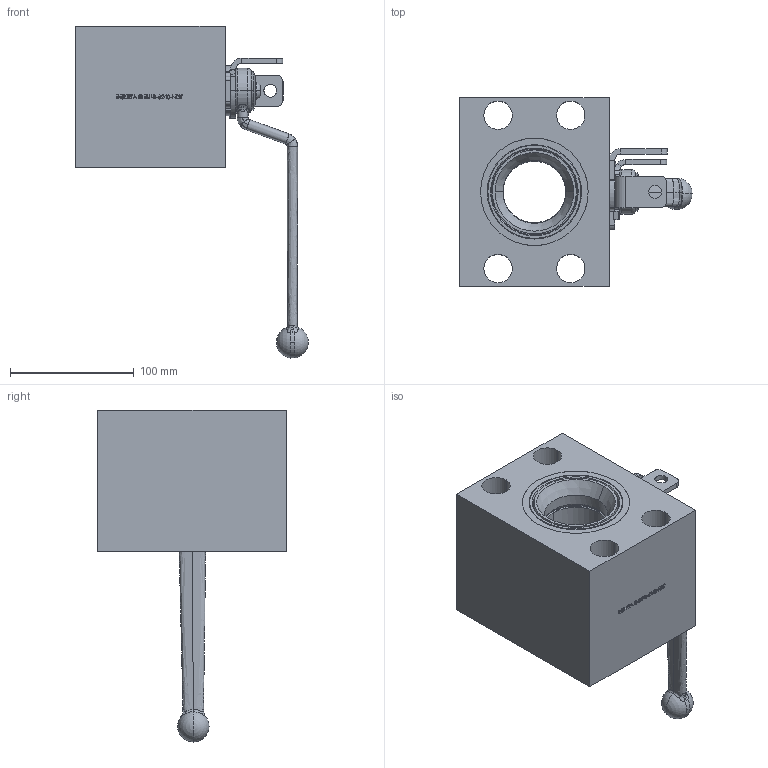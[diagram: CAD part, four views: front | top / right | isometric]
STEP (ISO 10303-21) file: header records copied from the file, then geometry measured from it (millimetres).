
FILE_DESCRIPTION (( 'STEP AP214' ), '1' );
FILE_NAME ('IBF-B-6240-N-D-T Open.STEP', '2026-02-20T16:08:50', ( '' ), ( '' ), 'SwSTEP 2.0', 'SolidWorks 2025', '' );
FILE_SCHEMA (( 'AUTOMOTIVE_DESIGN' ));
Length unit declared in the file: inch
Products named in the file (1): IBF-B-6240-N-D-T Open
Bounding box: 187.89 x 152.4 x 268.2 mm (x, y, z)
Volume: 1704417 mm3; surface area: 237046.5 mm2
Topology: 1 solids, 3 shells, 868 faces, 2422 edges, 1609 vertices
Faces by surface type: plane 473, bspline 194, cylinder 126, cone 42, torus 20, sphere 13
Entity records: 46619 total; most frequent: CARTESIAN_POINT 26025, ORIENTED_EDGE 4828, DIRECTION 3416, EDGE_CURVE 2414, VERTEX_POINT 1607, LINE 1186, VECTOR 1186, AXIS2_PLACEMENT_3D 1115
